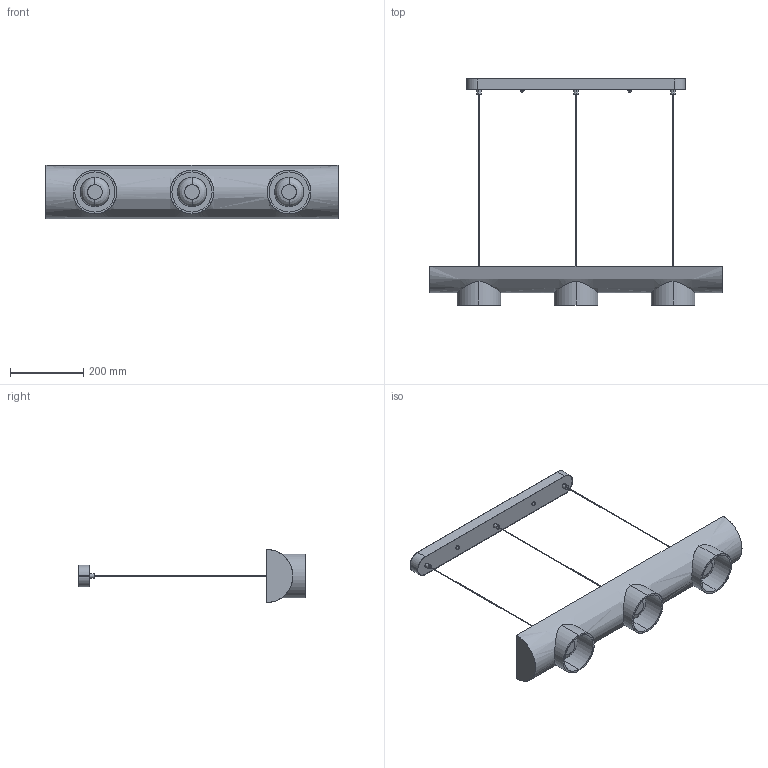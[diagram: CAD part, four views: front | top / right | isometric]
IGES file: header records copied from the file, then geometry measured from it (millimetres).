
Start section: SolidWorks IGES file using analytic representation for surfaces
Global section: file name: F:\燠隴矨\3D\2026-3\Modira Chandelier.IGS,15; native system: HSolidWorks 2022; preprocessor: SolidWorks 2022; author: MyPC; date: 260318.143930; units: millimetre
Bounding box: 800 x 620 x 146.11 mm (x, y, z)
Surface area: 787166.6 mm2 (no closed solid volume)
Topology: 0 solids, 0 shells, 100 faces, 3217 edges, 3213 vertices
Faces by surface type: revolution 54, bspline 46
